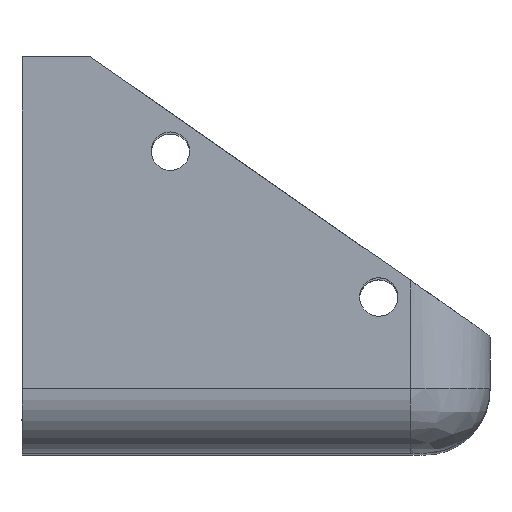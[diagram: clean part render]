
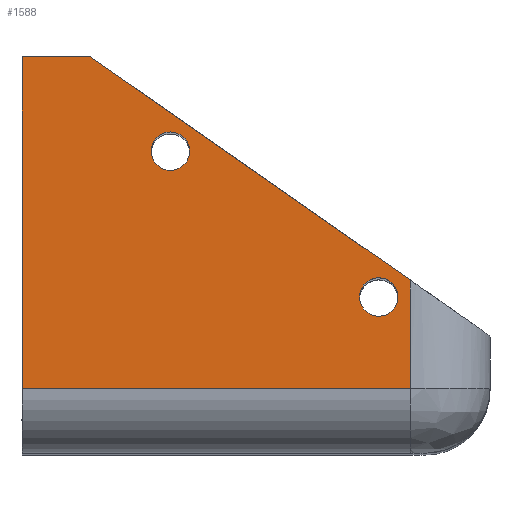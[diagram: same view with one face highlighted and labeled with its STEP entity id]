
A CAD part, top view. The second image highlights one B-rep face of the part: STEP entity #1588.
In plain terms, the highlighted planar face has unit normal (0, 0, 1) as drawn and (-1, 0, 0) by its records, which use the part's own axes.
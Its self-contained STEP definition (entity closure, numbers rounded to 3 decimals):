
#51=FACE_BOUND('',#505,.T.);
#52=FACE_BOUND('',#506,.T.);
#124=PLANE('',#1727);
#194=LINE('',#2808,#292);
#204=LINE('',#2838,#302);
#206=LINE('',#2842,#304);
#207=LINE('',#2845,#305);
#208=LINE('',#2846,#306);
#292=VECTOR('',#1988,10.);
#302=VECTOR('',#2018,8.469);
#304=VECTOR('',#2024,10.);
#305=VECTOR('',#2027,10.);
#306=VECTOR('',#2028,9.5);
#402=FACE_OUTER_BOUND('',#504,.T.);
#504=EDGE_LOOP('',(#1245,#1246,#1247,#1248,#1249));
#505=EDGE_LOOP('',(#1250));
#506=EDGE_LOOP('',(#1251));
#624=CIRCLE('',#1728,2.525);
#625=CIRCLE('',#1729,2.525);
#753=VERTEX_POINT('',#2798);
#755=VERTEX_POINT('',#2804);
#765=VERTEX_POINT('',#2835);
#766=VERTEX_POINT('',#2837);
#767=VERTEX_POINT('',#2844);
#768=VERTEX_POINT('',#2847);
#769=VERTEX_POINT('',#2849);
#932=EDGE_CURVE('',#753,#755,#194,.T.);
#947=EDGE_CURVE('',#766,#765,#204,.T.);
#950=EDGE_CURVE('',#766,#753,#206,.T.);
#951=EDGE_CURVE('',#765,#767,#207,.T.);
#952=EDGE_CURVE('',#755,#767,#208,.T.);
#953=EDGE_CURVE('',#768,#768,#624,.T.);
#954=EDGE_CURVE('',#769,#769,#625,.T.);
#1245=ORIENTED_EDGE('',*,*,#932,.F.);
#1246=ORIENTED_EDGE('',*,*,#950,.F.);
#1247=ORIENTED_EDGE('',*,*,#947,.T.);
#1248=ORIENTED_EDGE('',*,*,#951,.T.);
#1249=ORIENTED_EDGE('',*,*,#952,.F.);
#1250=ORIENTED_EDGE('',*,*,#953,.T.);
#1251=ORIENTED_EDGE('',*,*,#954,.T.);
#1588=ADVANCED_FACE('',(#402,#51,#52),#124,.T.);
#1727=AXIS2_PLACEMENT_3D('',#2843,#2025,#2026);
#1728=AXIS2_PLACEMENT_3D('',#2848,#2029,#2030);
#1729=AXIS2_PLACEMENT_3D('',#2850,#2031,#2032);
#1988=DIRECTION('',(0.,0.,-1.));
#2018=DIRECTION('',(0.,0.572,-0.82));
#2024=DIRECTION('',(0.,-1.,0.));
#2025=DIRECTION('center_axis',(-1.,0.,0.));
#2026=DIRECTION('ref_axis',(0.,1.,0.));
#2027=DIRECTION('',(0.,0.,-1.));
#2028=DIRECTION('',(0.,1.,0.));
#2029=DIRECTION('center_axis',(1.,0.,0.));
#2030=DIRECTION('ref_axis',(0.,0.,-1.));
#2031=DIRECTION('center_axis',(1.,0.,0.));
#2032=DIRECTION('ref_axis',(0.,0.,-1.));
#2798=CARTESIAN_POINT('',(8.35,5.65,-21.078));
#2804=CARTESIAN_POINT('',(8.35,5.65,-72.065));
#2808=CARTESIAN_POINT('',(8.35,5.65,-63.065));
#2835=CARTESIAN_POINT('',(8.35,49.191,-63.065));
#2837=CARTESIAN_POINT('',(8.35,19.887,-21.078));
#2838=CARTESIAN_POINT('',(8.35,18.97,-19.763));
#2842=CARTESIAN_POINT('',(8.35,-1.425,-21.078));
#2843=CARTESIAN_POINT('Origin',(8.35,-2.85,-63.065));
#2844=CARTESIAN_POINT('',(8.35,49.191,-72.065));
#2845=CARTESIAN_POINT('',(8.35,49.191,-63.065));
#2846=CARTESIAN_POINT('',(8.35,0.,-72.065));
#2847=CARTESIAN_POINT('',(8.35,17.65,-22.675));
#2848=CARTESIAN_POINT('Origin',(8.35,17.65,-25.2));
#2849=CARTESIAN_POINT('',(8.35,36.812,-50.043));
#2850=CARTESIAN_POINT('Origin',(8.35,36.812,-52.568));
